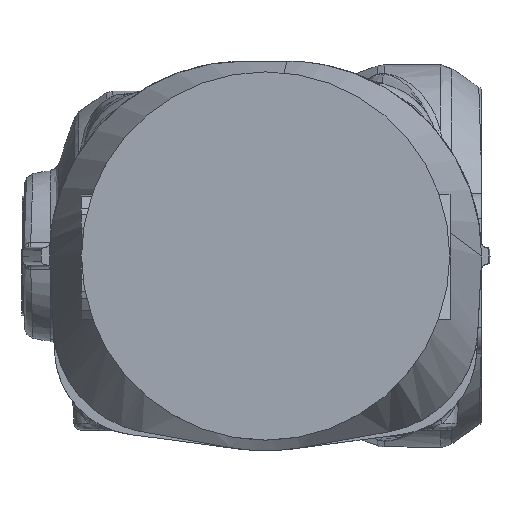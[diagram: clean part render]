
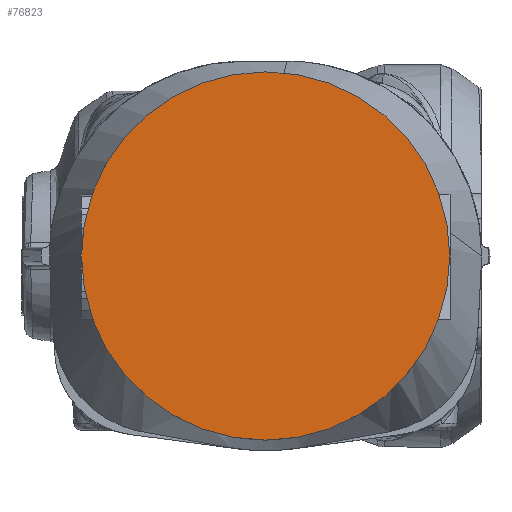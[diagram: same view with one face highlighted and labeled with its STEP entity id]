
A CAD part, left-side view. The second image highlights one B-rep face of the part: STEP entity #76823.
In plain terms, the highlighted planar face has unit normal (-1, 0, 0).
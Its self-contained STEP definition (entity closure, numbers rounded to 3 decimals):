
#1511 = EDGE_CURVE ( 'NONE', #33968, #66794, #68634, .T. ) ;
#1542 = DIRECTION ( 'NONE',  ( 0., 0., 1. ) ) ;
#2804 = CARTESIAN_POINT ( 'NONE',  ( 464., 0.002, 1014.413 ) ) ;
#7634 = DIRECTION ( 'NONE',  ( 1., 0., 0. ) ) ;
#13597 = AXIS2_PLACEMENT_3D ( 'NONE', #19936, #7634, #70009 ) ;
#19936 = CARTESIAN_POINT ( 'NONE',  ( 464., 0.002, 961.5 ) ) ;
#21004 = ORIENTED_EDGE ( 'NONE', *, *, #1511, .F. ) ;
#21643 = DIRECTION ( 'NONE',  ( 0., -1., 0. ) ) ;
#33968 = VERTEX_POINT ( 'NONE', #2804 ) ;
#39227 = DIRECTION ( 'NONE',  ( 1., 0., 0. ) ) ;
#58184 = DIRECTION ( 'NONE',  ( -1., 0., 0. ) ) ;
#59795 = CARTESIAN_POINT ( 'NONE',  ( 464., 0.002, 961.5 ) ) ;
#64636 = AXIS2_PLACEMENT_3D ( 'NONE', #64707, #39227, #1542 ) ;
#64707 = CARTESIAN_POINT ( 'NONE',  ( 464., 0.002, 961.5 ) ) ;
#66379 = PLANE ( 'NONE',  #69595 ) ;
#66794 = VERTEX_POINT ( 'NONE', #70363 ) ;
#68634 = CIRCLE ( 'NONE', #13597, 52.913 ) ;
#69595 = AXIS2_PLACEMENT_3D ( 'NONE', #59795, #58184, #21643 ) ;
#70009 = DIRECTION ( 'NONE',  ( 0., 0., 1. ) ) ;
#70363 = CARTESIAN_POINT ( 'NONE',  ( 464., 0.002, 908.587 ) ) ;
#70962 = EDGE_CURVE ( 'NONE', #66794, #33968, #75116, .T. ) ;
#71403 = EDGE_LOOP ( 'NONE', ( #21004, #74227 ) ) ;
#74227 = ORIENTED_EDGE ( 'NONE', *, *, #70962, .F. ) ;
#75116 = CIRCLE ( 'NONE', #64636, 52.913 ) ;
#76823 = ADVANCED_FACE ( 'NONE', ( #77474 ), #66379, .T. ) ;
#77474 = FACE_OUTER_BOUND ( 'NONE', #71403, .T. ) ;
